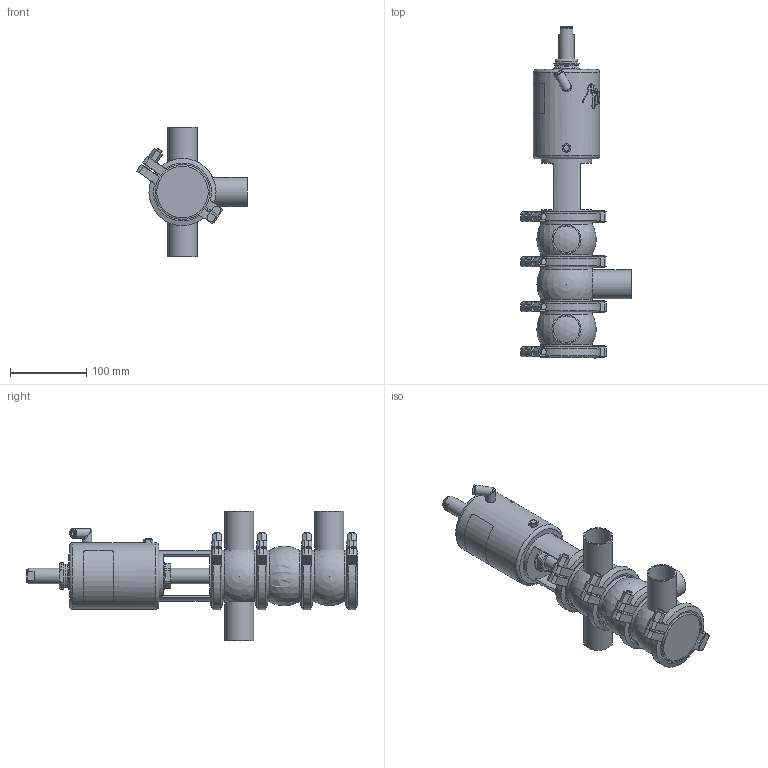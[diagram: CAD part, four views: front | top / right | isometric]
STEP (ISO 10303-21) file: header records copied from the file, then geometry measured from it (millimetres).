
FILE_DESCRIPTION (( 'STEP AP214' ), '1' );
FILE_NAME ('INNOVA L P W OD 1½ T1 AS NC_10.241.16.0016.STEP', '2024-08-07T07:41:57', ( '' ), ( '' ), 'SwSTEP 2.0', 'SolidWorks 2023', '' );
FILE_SCHEMA (( 'AUTOMOTIVE_DESIGN' ));
Length unit declared in the file: millimetre
Products named in the file (7): 10.240.15.0010_DN 040; 10.240.15.0014_T1 AS P180; INNOVA L P W OD 1½ T1 AS NC_10.241.16.0016; 10.240.15.0001_DN 040; 10.240.15.0006_OD 1½"; 10.241.15.0001_DIN 040; 10.240.15.0007_OD 1½"
Assembly tree (10 placements, depth 2):
  INNOVA L P W OD 1½ T1 AS NC_10.241.16.0016
    10.240.15.0007_OD 1½"
    10.240.15.0006_OD 1½"  x2
    10.240.15.0010_DN 040
    10.240.15.0014_T1 AS P180
    10.240.15.0001_DN 040  x4
    10.241.15.0001_DIN 040
Bounding box: 145.13 x 435.07 x 170 mm (x, y, z)
Volume: 1757680.2 mm3; surface area: 281484.3 mm2
Topology: 11 solids, 11 shells, 536 faces, 1404 edges, 914 vertices
Faces by surface type: plane 261, cylinder 138, bspline 80, cone 46, sphere 7, torus 4
Full cylindrical faces by diameter (mm): 6.15 x1, 8 x9, 8.5 x1, 10.5 x1, 12.5 x3, 16 x1, 20 x2, 31 x1, 34.5 x2, 34.8 x4, 36.5 x1, 38.1 x4, 66 x1, 67.5 x7, 79.5 x8, 87 x1
Entity records: 19653 total; most frequent: CARTESIAN_POINT 10224, ORIENTED_EDGE 1624, DIRECTION 1275, EDGE_CURVE 812, VERTEX_POINT 563, AXIS2_PLACEMENT_3D 493, EDGE_LOOP 431, FACE_OUTER_BOUND 386
